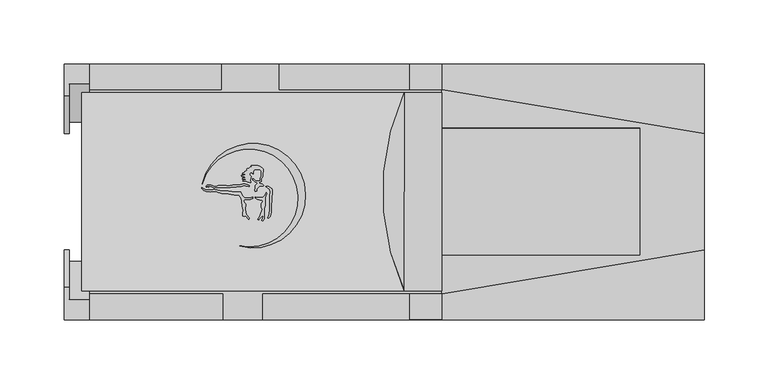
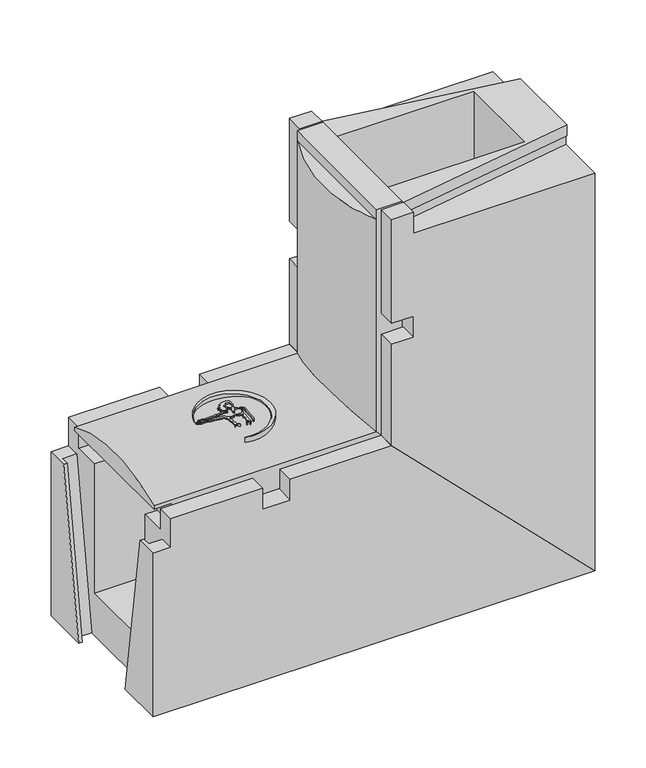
"""IFC4 building model written with IfcOpenShell, lengths in millimetres: cable carrier fitting geometry, Evotray type 1 vertical bend up : Evotray type 1 vertical bend up."""

from ifc_helpers import new_model, si_unit, point, frame, frame_2d, origin, place, context, project, spatial, polyline, circle_curve, ellipse_curve, trimmed, segment, composite_curve, outline, extrude, faceted_brep, source, transform, mapped, element, save
from ifc_brep_helpers import plane_surface, cylinder_surface, advanced_brep


def cable_carrier_fitting_a0a97254(model_context):
    return source(origin(), model_context, "Body", "SolidModel", [
        extrude(outline(composite_curve([segment(polyline([(-230.1987673, 5.907559), (-228.7730763, 5.0844359), (-229.4820077, 4.6751342), (-232.0469375, 4.6751342), (-234.5064308, 2.2156409), (-234.5064308, 0.6319729), (-235.5639447, 0.3486129), (-235.8953119, 1.5852919), (-235.5730905, 2.7878385), (-235.5730905, 5.0146536), (-234.1065498, 6.4811943), (-234.5064308, 7.1738084), (-235.5730905, 7.7896447), (-236.4313624, 8.2851682), (-237.4244859, 9.2782918), (-237.4244859, 10.5283487), (-236.6366917, 10.0735155), (-235.5730905, 9.0099142), (-234.5064308, 8.394078), (-232.1936661, 8.394078), (-231.5617675, 9.0259766), (-231.5617675, 10.6343813), (-231.1559104, 11.3373462), (-230.9163405, 12.2314336), (-230.9163405, 16.3268685), (-231.5617675, 16.9722955), (-235.5730905, 17.3232408), (-236.3212546, 16.8912881), (-236.7531031, 16.1433045), (-236.9754965, 15.313321), (-237.2482129, 13.7666695), (-237.8042347, 14.3226912), (-238.3698905, 14.8883471), (-239.3304254, 14.8883471), (-239.8048648, 14.0665939), (-239.8048648, 13.2416885), (-239.4028177, 12.5453225), (-238.675123, 11.8176278), (-239.0717623, 10.3373496), (-239.4092623, 9.0777826), (-239.1064549, 7.3604762), (-239.907248, 7.2192748), (-241.6376932, 7.6829462), (-242.8844025, 8.2642963), (-243.6376597, 8.6155459), (-245.2371082, 8.33352), (-244.7695498, 9.1433549), (-243.1127288, 9.7463885)]), True, "CONTINUOUS"), segment(trimmed(circle_curve(frame_2d((-243.6788564, 9.4744491)), 0.6280537), [point((-243.1127288, 9.7463885))], [point((-243.8344386, 10.0829273))], True, "CARTESIAN"), True, "CONTINUOUS"), segment(polyline([(-243.8344386, 10.0829273), (-245.7814537, 10.0829273), (-245.2232755, 10.6411054), (-244.3724958, 10.9507639), (-243.5540563, 11.2486515)]), True, "CONTINUOUS"), segment(trimmed(circle_curve(frame_2d((-244.2923812, 11.2486515)), 0.7383249), [point((-243.5540563, 11.2486515))], [point((-244.2923812, 11.9869764))], True, "CARTESIAN"), True, "CONTINUOUS"), segment(polyline([(-244.2923812, 11.9869764), (-246.0001288, 11.9869764), (-246.3916504, 12.6651117), (-244.5730583, 12.9857785), (-243.2767203, 13.457607), (-243.897473, 14.0783597), (-245.8606925, 14.0783597), (-245.30811, 14.6309421), (-244.2782773, 15.2255163), (-243.603553, 15.9002407), (-242.8807357, 16.3175594), (-241.9057237, 16.8804829)]), True, "CONTINUOUS"), segment(trimmed(circle_curve(frame_2d((-242.1167091, 17.2459203)), 0.4219708), [point((-241.9057237, 16.8804829))], [point((-242.3276945, 17.6113577))], True, "CARTESIAN"), True, "CONTINUOUS"), segment(polyline([(-242.3276945, 17.6113577), (-241.7102978, 18.2287544), (-240.4076278, 18.7028875), (-239.4125713, 19.2773836), (-238.2810347, 19.4769041), (-238.6348604, 20.4490324), (-233.6348604, 20.4490324), (-232.6206866, 19.9761154), (-231.4988316, 19.6755153), (-230.4843855, 19.0898245), (-229.3757091, 17.9811481), (-229.3757091, 15.4151328), (-229.8646262, 14.5683035), (-229.8646262, 11.8362675), (-230.3536612, 10.7875287), (-230.760463, 10.0829273), (-230.760463, 8.2341629), (-231.5617675, 7.7715296), (-232.3950459, 7.6246001)]), True, "CONTINUOUS"), segment(trimmed(circle_curve(frame_2d((-231.3420944, 7.3424626)), 1.0900956), [point((-232.3950459, 7.6246001))], [point((-231.6242319, 6.2895111))], True, "CARTESIAN"), True, "CONTINUOUS"), segment(polyline([(-231.6242319, 6.2895111), (-230.1987673, 5.907559)]), True, "CONTINUOUS")], self_intersect=False)), frame((0.0, 0.0, 229.0645802), z_axis=(0.0, 0.0, 1.0), x_axis=(1.0, 0.0, 0.0)), (0.0, 0.0, 1.0), 22.5),
        extrude(outline(polyline([(-225.6420581, 3.0525563), (-227.5647021, 4.1625953), (-226.375462, 4.4812513), (-225.0006066, 3.9808448), (-222.8744575, 2.753312), (-222.462808, 1.2170154), (-222.462808, -1.5561738), (-222.8811889, -3.9289297), (-223.2073261, -13.2682758), (-223.2073261, -16.1231727), (-223.766974, -19.297094), (-224.9259981, -20.4561181), (-225.8234867, -20.4561181), (-225.1486125, -18.6019165), (-224.8396569, -16.8497423), (-224.3251997, -13.9321102), (-224.3251997, -2.6926455), (-223.883565, -0.1880111), (-224.4260419, 1.8365401), (-225.6420581, 3.0525563)])), frame((0.0, 0.0, 229.0645802), z_axis=(0.0, 0.0, 1.0), x_axis=(1.0, 0.0, 0.0)), (0.0, 0.0, 1.0), 22.5),
        extrude(outline(composite_curve([segment(polyline([(-233.070307, -4.5554644), (-231.0881056, -4.5554644), (-229.6198413, -4.2965698), (-228.3145593, -2.9912878), (-227.1344504, -0.4605362), (-226.6534984, -1.7819409), (-227.2762062, -3.117342), (-227.9468137, -4.5554644), (-227.9468137, -10.5136603), (-228.3751928, -12.943119), (-228.3751928, -21.4242609), (-229.8238515, -22.8729196), (-230.3965887, -22.3001824), (-229.7178687, -20.5578122), (-229.4597233, -19.0937972)]), True, "CONTINUOUS"), segment(trimmed(circle_curve(frame_2d((-229.8743713, -19.0937972)), 0.414648), [point((-229.4597233, -19.0937972))], [point((-230.2890194, -19.0937972))], True, "CARTESIAN"), True, "CONTINUOUS"), segment(polyline([(-230.2890194, -19.0937972), (-231.0547081, -19.8594859), (-232.3215546, -21.3692548), (-232.9770637, -22.0247639), (-233.7693849, -21.6552984), (-231.605165, -18.4467105), (-231.2992553, -16.7118106), (-230.4571975, -14.9060116), (-230.19999, -13.4473154), (-230.9884987, -12.0815782), (-230.9884987, -9.315031), (-229.6653502, -7.4454743)]), True, "CONTINUOUS"), segment(trimmed(circle_curve(frame_2d((-230.0024552, -7.2068937)), 0.4129897), [point((-229.6653502, -7.4454743))], [point((-230.2410358, -6.8697887))], True, "CARTESIAN"), True, "CONTINUOUS"), segment(polyline([(-230.2410358, -6.8697887), (-232.2448508, -6.516462), (-233.6887473, -5.843162), (-235.508748, -4.9944818), (-235.508748, -4.1255015), (-233.070307, -4.5554644)]), True, "CONTINUOUS")], self_intersect=False)), frame((0.0, 0.0, 229.0645802), z_axis=(0.0, 0.0, 1.0), x_axis=(1.0, 0.0, 0.0)), (0.0, 0.0, 1.0), 22.5),
        extrude(outline(composite_curve([segment(polyline([(-275.4819029, 2.2537302), (-273.7462291, 1.4443722), (-269.5597552, 1.4443722), (-268.4890341, 1.731271), (-267.1624965, 1.731271), (-265.4413877, 1.4443722), (-263.4350656, 0.9067798), (-262.2818775, 0.597784), (-256.5899708, 0.597784), (-253.9734749, 0.1616293), (-252.6459123, -0.19409), (-247.03167, -0.19409)]), True, "CONTINUOUS"), segment(trimmed(circle_curve(frame_2d((-238.1781038, 2.7115165)), 9.3181642), [point((-247.03167, -0.19409))], [point((-243.6774022, -4.8108435))], True, "CARTESIAN"), True, "CONTINUOUS"), segment(polyline([(-243.6774022, -4.8108435), (-240.6256174, -4.8108435), (-238.5910388, -4.632841), (-237.4520349, -4.1017147), (-237.7095548, -5.0627921), (-238.6536491, -5.6078652), (-239.612336, -5.9567987), (-242.847041, -5.8438403), (-244.0357356, -6.2764898), (-244.44473, -7.153581), (-244.3696494, -8.0117562), (-243.8907652, -8.8412079), (-243.1701597, -9.5618134), (-243.1701597, -11.3180259), (-243.53546, -12.3216801), (-243.3911934, -13.970655), (-242.8861011, -15.8556852), (-242.737982, -17.5486944), (-240.3666469, -20.2766033), (-240.5753239, -21.4600691), (-243.1701597, -18.8652332), (-244.1329913, -19.1232231), (-245.5361675, -18.8758053), (-245.2606072, -18.1187094), (-245.2606072, -15.8446539), (-245.0850033, -14.8487551), (-245.2606072, -12.8415943), (-245.6362696, -11.8094702), (-245.6362696, -9.9842873), (-246.0826053, -9.0271173), (-246.0826053, -6.6493678), (-246.3310455, -5.7221762), (-246.7830159, -4.9393406), (-247.2317276, -4.1621491), (-247.84617, -3.5477067), (-248.2800213, -2.6173096), (-251.8809595, -2.4915621), (-254.2251115, -2.1008055), (-256.2577048, -1.5561738), (-259.5993244, -1.2049554), (-261.6789374, -1.2049554), (-263.021172, -0.8453047), (-264.5447671, -0.4370587), (-265.8880204, 0.1893106), (-266.8824091, 0.1893106), (-269.5338495, 0.1893106), (-270.6460936, -0.1087143), (-272.5093755, 0.0871245), (-273.9984504, 0.3353447), (-275.6717579, 1.1156208), (-276.6476843, 2.0915471), (-277.2867674, 2.7306302), (-277.2867674, 3.5175099), (-275.4819029, 2.2537302)]), True, "CONTINUOUS")], self_intersect=False)), frame((0.0, 0.0, 229.0645802), z_axis=(0.0, 0.0, 1.0), x_axis=(1.0, 0.0, 0.0)), (0.0, 0.0, 1.0), 22.5),
        extrude(outline(composite_curve([segment(polyline([(-272.9796703, 3.7977023), (-271.956356, 3.2068915), (-273.6840165, 3.7265624), (-274.014163, 4.6441261), (-273.1758386, 5.4824506), (-270.30302, 5.4824506), (-269.318583, 5.0847122), (-268.2280942, 4.6441261), (-267.4299007, 4.1832889), (-266.1696706, 4.1832889), (-265.3486455, 4.4787), (-264.4633932, 4.9898007), (-258.0496883, 4.9898007), (-257.1941137, 4.6441261), (-256.1237116, 4.6441261), (-255.1629915, 4.9898007), (-253.9838348, 4.9898007), (-253.2654957, 5.4045339), (-247.8528405, 5.4045339), (-247.0925598, 5.6780888), (-245.8504018, 5.6780888), (-245.2746333, 6.2538574), (-243.3170698, 6.2538574), (-242.0290688, 5.7334711), (-241.0171524, 5.1492409), (-240.2127113, 4.8242256)]), True, "CONTINUOUS"), segment(trimmed(circle_curve(frame_2d((-240.6200436, 4.6596527)), 0.4393221), [point((-240.2127113, 4.8242256))], [point((-240.7846166, 4.2523203))], False, "CARTESIAN"), True, "CONTINUOUS"), segment(polyline([(-240.7846166, 4.2523203), (-241.8003453, 4.6627013), (-243.112003, 4.6627013), (-244.382433, 4.8867124), (-245.1944574, 4.5945398), (-246.3374314, 4.1832889), (-249.6816293, 4.1832889), (-250.4727027, 3.7265624), (-254.0400229, 3.7265624), (-254.9228853, 3.2168416), (-264.9228853, 3.2168416), (-267.5335493, 2.9884381), (-271.222077, 4.4787), (-273.3728446, 4.4787), (-272.9796703, 3.7977023)]), True, "CONTINUOUS")], self_intersect=False)), frame((0.0, 0.0, 229.0645802), z_axis=(0.0, 0.0, 1.0), x_axis=(1.0, 0.0, 0.0)), (0.0, 0.0, 1.0), 22.5),
        extrude(outline(composite_curve([segment(trimmed(circle_curve(frame_2d((-240.3994103, -4.8721323)), 38.3616107), [point((-247.8072471, -42.511701))], [point((-277.1109456, 6.2578432))], True, "CARTESIAN"), True, "CONTINUOUS"), segment(trimmed(circle_curve(frame_2d((-237.2700096, -2.9917986)), 40.900563), [point((-277.1109456, 6.2578432))], [point((-247.8072471, -42.511701))], False, "CARTESIAN"), True, "CONTINUOUS")], self_intersect=False)), frame((0.0, 0.0, 229.0645802), z_axis=(0.0, 0.0, 1.0), x_axis=(1.0, 0.0, 0.0)), (0.0, 0.0, 1.0), 22.5),
        advanced_brep(
        [(-90.0, -77.5, 205.0), (-90.0, -77.5, 500.0), (-119.0, -77.5, 500.0), (-118.9759433, -77.5, 488.0), (-119.0, -77.5, 234.0), (-90.0, 77.5, 500.0), (-90.0, 77.5, 205.0), (-119.0, 77.5, 234.0), (-119.0, 77.5, 488.0), (-118.9759433, 77.5, 500.0)],
        [
            (0, 1),
            (1, 2),
            (2, 3),
            (3, 4),
            (4, 0),
            (5, 6),
            (6, 7),
            (7, 8),
            (8, 9),
            (9, 5),
            (1, 5),
            (9, 2),
            (6, 0),
            (4, 7, ellipse_curve(frame((49.9120172, 0.0, 65.0879828), z_axis=(-0.7071067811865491, 0.0, -0.7071067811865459), x_axis=(-0.7071067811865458, 0.0, 0.707106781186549)), 262.8213064, 185.842728)),
            (3, 8, circle_curve(frame((49.9120172, 0.0, 488.0), z_axis=(0.0, 0.0, -1.0), x_axis=(0.0, -1.0, 0.0)), 185.842728)),
            (8, 3),
        ],
        [
            plane_surface(frame((-90.0, -77.5, 500.0), z_axis=(0.0, -1.0, 0.0), x_axis=(-1.0, 0.0, 0.0))),
            plane_surface(frame((-90.0, 77.5, 500.0), z_axis=(0.0, 1.0, 0.0), x_axis=(1.0, 0.0, 0.0))),
            plane_surface(frame((-90.0, -77.5, 500.0), z_axis=(0.0, 0.0, 1.0), x_axis=(0.0, 1.0, 0.0))),
            plane_surface(frame((-136.0, -77.5, 251.0), z_axis=(-0.7071067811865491, 0.0, -0.7071067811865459), x_axis=(0.0, 1.0, 0.0))),
            plane_surface(frame((-90.0, -77.5, 205.0), z_axis=(1.0, 0.0, 0.0), x_axis=(0.0, 1.0, 0.0))),
            cylinder_surface(frame((49.9120172, 0.0, 228.0), z_axis=(0.0, 0.0, 1.0), x_axis=(0.0, -1.0, 0.0)), 185.842728),
            plane_surface(frame((-118.9759433, -77.5, 500.0), z_axis=(-1.0, 0.0, 0.0), x_axis=(0.0, 0.0, -1.0))),
            plane_surface(frame((-118.9759433, -77.5, 488.0), z_axis=(0.0, 0.0, 1.0), x_axis=(-1.0, 0.0, 0.0))),
        ],
        [
            (0, [[1, 2, 3, 4, 5]]),
            (1, [[6, 7, 8, 9, 10]]),
            (2, [[11, -10, 12, -2]]),
            (3, [[13, -5, 14, -7]]),
            (4, [[-1, -13, -6, -11]]),
            (5, [[-14, -4, 15, -8]]),
            (6, [[16, -3, -12, -9]]),
            (7, [[-16, -15]]),
        ],
    ),
        advanced_brep(
        [(-90.0, -77.5, 205.0), (-119.0, -77.5, 234.0), (-371.0, -77.5, 234.0), (-371.0, -77.5, 230.0), (-351.0, -77.5, 230.0), (-351.0, -77.5, 205.0), (-119.0, 77.5, 234.0), (-90.0, 77.5, 205.0), (-351.0, 77.5, 205.0), (-351.0, 77.5, 230.0), (-371.0, 77.5, 230.0), (-371.0, 77.5, 234.0)],
        [
            (0, 1),
            (1, 2),
            (2, 3),
            (3, 4),
            (4, 5),
            (5, 0),
            (6, 7),
            (7, 8),
            (8, 9),
            (9, 10),
            (10, 11),
            (11, 6),
            (2, 11, circle_curve(frame((-371.0, 0.0, 65.0879828), z_axis=(-1.0, 0.0, 0.0), x_axis=(0.0, -1.0, 0.0)), 185.842728)),
            (10, 3),
            (7, 0),
            (5, 8),
            (6, 1, ellipse_curve(frame((49.9120172, 0.0, 65.0879828), z_axis=(0.7071067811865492, 0.0, 0.7071067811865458), x_axis=(0.7071067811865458, 0.0, -0.7071067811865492)), 262.8213064, 185.842728)),
            (9, 4),
        ],
        [
            plane_surface(frame((-371.0, -77.5, 205.0), z_axis=(0.0, -1.0, 0.0), x_axis=(0.0, 0.0, -1.0))),
            plane_surface(frame((-371.0, 77.5, 205.0), z_axis=(0.0, 1.0, 0.0), x_axis=(0.0, 0.0, 1.0))),
            plane_surface(frame((-371.0, -77.5, 251.0), z_axis=(-1.0, 0.0, 0.0), x_axis=(0.0, 1.0, 0.0))),
            plane_surface(frame((-371.0, -77.5, 205.0), z_axis=(0.0, 0.0, -1.0), x_axis=(0.0, 1.0, 0.0))),
            plane_surface(frame((-90.0, -77.5, 205.0), z_axis=(0.7071067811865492, 0.0, 0.7071067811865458), x_axis=(0.0, 1.0, 0.0))),
            cylinder_surface(frame((-371.0, 0.0, 65.0879828), z_axis=(1.0, 0.0, 0.0), x_axis=(0.0, -1.0, 0.0)), 185.842728),
            plane_surface(frame((-371.0, 77.5, 230.0), z_axis=(0.0, 0.0, -1.0), x_axis=(-1.0, 0.0, 0.0))),
            plane_surface(frame((-351.0, -77.5, 230.0), z_axis=(-1.0, 0.0, 0.0), x_axis=(0.0, 0.0, -1.0))),
        ],
        [
            (0, [[1, 2, 3, 4, 5, 6]]),
            (1, [[7, 8, 9, 10, 11, 12]]),
            (2, [[13, -11, 14, -3]]),
            (3, [[15, -6, 16, -8]]),
            (4, [[-15, -7, 17, -1]]),
            (5, [[-2, -17, -12, -13]]),
            (6, [[18, -4, -14, -10]]),
            (7, [[-18, -9, -16, -5]]),
        ],
    ),
        faceted_brep([(-115.0, -100.0, 230.0), (115.0, -100.0, 0.0), (115.0, -100.0, 475.0), (-90.0, -100.0, 475.0), (-90.0, -100.0, 500.0), (-115.0, -100.0, 500.0), (-115.0, -100.0, 376.0), (-90.0, -100.0, 376.0), (-90.0, -100.0, 351.0), (-115.0, -100.0, 351.0), (115.0, 100.0, 0.0), (-115.0, 100.0, 230.0), (-115.0, 100.0, 332.0), (-90.0, 100.0, 332.0), (-90.0, 100.0, 377.0), (-115.0, 100.0, 377.0), (-115.0, 100.0, 500.0), (-90.0, 100.0, 500.0), (-90.0, 100.0, 475.0), (115.0, 100.0, 475.0), (-90.0, -50.0, 500.0), (-90.0, -80.0, 500.0), (115.0, -45.4, 500.0), (115.0, 45.4, 500.0), (-90.0, 80.0, 500.0), (-90.0, 50.0, 500.0), (65.0, 50.0, 500.0), (65.0, -50.0, 500.0), (-115.0, -80.0, 500.0), (-115.0, 80.0, 500.0), (-115.0, -80.0, 376.0), (-115.0, 80.0, 377.0), (-115.0, -80.0, 230.0), (-115.0, -80.0, 351.0), (-115.0, 80.0, 230.0), (-115.0, 80.0, 332.0), (-90.0, -80.0, 205.0), (-90.0, -50.0, 205.0), (65.0, -50.0, 50.0), (65.0, 50.0, 50.0), (-90.0, 50.0, 205.0), (-90.0, 80.0, 205.0), (115.0, 43.0, 475.0), (115.0, 43.0, 487.0), (115.0, 45.4, 487.0), (115.0, -45.4, 487.0), (115.0, -43.0, 487.0), (115.0, -43.0, 475.0), (-90.0, -80.0, 487.0), (-90.0, -80.0, 475.0), (-90.0, -80.0, 376.0), (-90.0, -80.0, 351.0), (-90.0, 80.0, 377.0), (-90.0, 80.0, 475.0), (-90.0, 80.0, 487.0), (-90.0, 80.0, 332.0), (-90.0, -77.6, 475.0), (-90.0, -77.6, 487.0), (-90.0, 77.6, 487.0), (-90.0, 77.6, 475.0)], [[[0, 1, 2, 3, 4, 5, 6, 7, 8, 9]], [[10, 11, 12, 13, 14, 15, 16, 17, 18, 19]], [[20, 21, 22, 23, 24, 25, 26, 27]], [[28, 5, 4, 21]], [[16, 29, 24, 17]], [[5, 28, 30, 6]], [[29, 16, 15, 31]], [[32, 0, 9, 33]], [[11, 34, 35, 12]], [[1, 0, 32, 36, 37, 38, 39, 40, 41, 34, 11, 10]], [[1, 10, 19, 42, 43, 44, 23, 22, 45, 46, 47, 2]], [[28, 21, 48, 49, 50, 30]], [[36, 32, 33, 51]], [[24, 29, 31, 52, 53, 54]], [[34, 41, 55, 35]], [[37, 36, 51, 8, 7, 50, 49, 56, 57, 48, 21, 20]], [[41, 40, 25, 24, 54, 58, 59, 53, 52, 14, 13, 55]], [[27, 38, 37, 20]], [[39, 26, 25, 40]], [[38, 27, 26, 39]], [[48, 21, 4, 3, 49]], [[21, 48, 45, 22]], [[24, 54, 53, 18, 17]], [[54, 24, 23, 44]], [[46, 57, 56, 47]], [[47, 56, 49, 3, 2]], [[57, 46, 45, 48]], [[42, 59, 58, 43]], [[59, 42, 19, 18, 53]], [[43, 58, 54, 44]], [[55, 13, 12, 35]], [[14, 52, 31, 15]], [[50, 7, 6, 30]], [[8, 51, 33, 9]]]),
        faceted_brep([(-385.0, -100.0, 0.0), (115.0, -100.0, 0.0), (-115.0, -100.0, 230.0), (-229.6518259, -100.0, 230.0), (-229.6518259, -100.0, 205.0), (-261.0, -100.0, 205.0), (-261.0, -100.0, 230.0), (-365.0130369, -100.0, 230.0), (-365.0130369, -100.0, 196.0), (-385.0, -100.0, 196.0), (-115.0, 100.0, 230.0), (115.0, 100.0, 0.0), (-385.0, 100.0, 0.0), (-385.0, 100.0, 196.0), (-365.0130369, 100.0, 196.0), (-365.0130369, 100.0, 230.0), (-262.0, 100.0, 230.0), (-262.0, 100.0, 205.0), (-217.0, 100.0, 205.0), (-217.0, 100.0, 230.0), (-115.0, -80.0, 230.0), (-229.6518259, -80.0, 230.0), (-115.0, 80.0, 230.0), (-217.0, 80.0, 230.0), (-365.0130369, -80.0, 230.0), (-261.0, -80.0, 230.0), (-365.0130369, 80.0, 230.0), (-262.0, 80.0, 230.0), (-385.0, -45.45, 0.0), (-385.0, -74.8926087, 196.0), (-385.0, 45.45, 0.0), (-385.0, 74.8926087, 196.0), (-381.0, -45.45, 0.0), (-381.0, -54.6, 0.0), (-365.0, -54.6, 0.0), (-365.0, 54.6, 0.0), (-381.0, 54.6, 0.0), (-381.0, 45.45, 0.0), (-90.0, 80.0, 205.0), (-90.0, 50.0, 205.0), (65.0, 50.0, 50.0), (65.0, -50.0, 50.0), (-90.0, -50.0, 205.0), (-90.0, -80.0, 205.0), (-381.0, 74.8926087, 196.0), (-381.0, -74.8926087, 196.0), (-365.0, 84.0426087, 196.0), (-381.0, 84.0426087, 196.0), (-381.0, -84.0426087, 196.0), (-365.0, -84.0426087, 196.0), (-365.0, -80.0, 205.0), (-365.0, -77.5, 205.0), (-365.0, -50.0, 205.0), (-365.0, -50.0, 50.0), (-365.0, 50.0, 50.0), (-365.0, 50.0, 205.0), (-365.0, 77.5, 205.0), (-365.0, 80.0, 205.0), (-229.6518259, -80.0, 205.0), (-261.0, -80.0, 205.0), (-217.0, 80.0, 205.0), (-262.0, 80.0, 205.0), (-351.0, 50.0, 205.0), (-351.0, -50.0, 205.0)], [[[0, 1, 2, 3, 4, 5, 6, 7, 8, 9]], [[10, 11, 12, 13, 14, 15, 16, 17, 18, 19]], [[2, 20, 21, 3]], [[22, 10, 19, 23]], [[24, 7, 6, 25]], [[15, 26, 27, 16]], [[28, 0, 9, 29]], [[12, 30, 31, 13]], [[1, 0, 28, 32, 33, 34, 35, 36, 37, 30, 12, 11]], [[2, 1, 11, 10, 22, 38, 39, 40, 41, 42, 43, 20]], [[30, 37, 44, 31]], [[32, 28, 29, 45]], [[36, 35, 46, 47]], [[33, 32, 45, 48]], [[37, 36, 47, 44]], [[34, 33, 48, 49]], [[35, 34, 49, 8, 7, 24, 50, 51, 52, 53, 54, 55, 56, 57, 26, 15, 14, 46]], [[8, 49, 48, 45, 29, 9]], [[46, 14, 13, 31, 44, 47]], [[20, 43, 58, 21]], [[50, 24, 25, 59]], [[38, 22, 23, 60]], [[26, 57, 61, 27]], [[39, 38, 60, 18, 17, 61, 57, 56, 55, 62]], [[43, 42, 63, 52, 51, 50, 59, 5, 4, 58]], [[41, 53, 52, 63, 42]], [[54, 40, 39, 62, 55]], [[53, 41, 40, 54]], [[61, 17, 16, 27]], [[18, 60, 23, 19]], [[5, 59, 25, 6]], [[58, 4, 3, 21]]]),
    ])


if __name__ == "__main__":
    model = new_model("IFC4")
    model_context = context("Model", 3, world=origin())
    ifc_project = project(units=[si_unit("LENGTHUNIT", "METRE", prefix="MILLI")], contexts=[model_context])
    site = spatial("IfcSite", under=ifc_project)
    building = spatial("IfcBuilding", under=site)
    placement = place(None, origin())
    cable_carrier_fitting_shape = cable_carrier_fitting_a0a97254(model_context)
    element("IfcCableCarrierFitting", 1, ObjectType="Evotray type 1 vertical bend up : Evotray type 1 vertical bend up", at=placement, inside=building, context=model_context, shape_type="MappedRepresentation", body=[
        mapped(cable_carrier_fitting_shape, transform((0.0, 0.0, 0.0), x_axis=(1.0, 0.0, 0.0), y_axis=(0.0, 1.0, 0.0), z_axis=(0.0, 0.0, 1.0))),
    ])
    save(model, "model.ifc")
